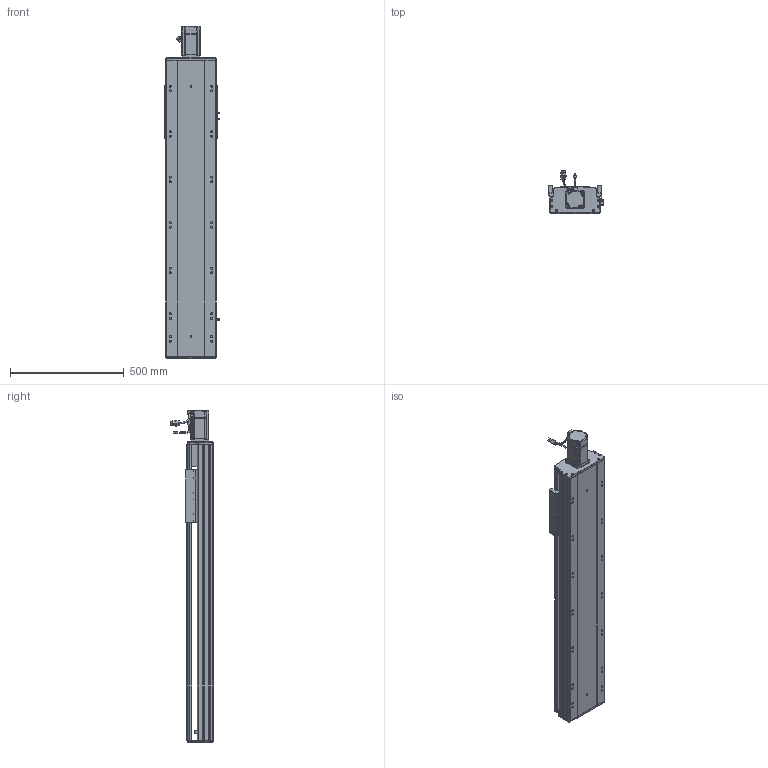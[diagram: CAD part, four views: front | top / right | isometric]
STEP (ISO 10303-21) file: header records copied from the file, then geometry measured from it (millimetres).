
FILE_DESCRIPTION (( 'STEP AP203' ), '1' );
FILE_NAME ('RY220-L2525-300-MK.SLDASM_900.step', '2022-07-04T02:57:47', ( '' ), ( '' ), 'SwSTEP 2.0', 'SolidWorks 2016', '' );
FILE_SCHEMA (( 'CONFIG_CONTROL_DESIGN' ));
Length unit declared in the file: millimetre
Products named in the file (12): RY220-300-奻裔啣-MK_900; RY220-L2525-300-MK.SLDASM_900; RY220綴裔啣; 滅袉蝶18-12; RY220-俋离672覜茼んえ; RY220菁釱MK-300_900; RY220ヶ裔啣; 覜茼ん672; RY220半封闭25-32螺母铝滑块; 怢湛750W_ECMA-CX0807ES; 滅袉蝶18-15; RY220电机支撑座FK20（PCD90M6）
Assembly tree (15 placements, depth 2):
  RY220-L2525-300-MK.SLDASM_900
    RY220菁釱MK-300_900
    RY220电机支撑座FK20（PCD90M6）
    怢湛750W_ECMA-CX0807ES
    滅袉蝶18-12  x2
    RY220ヶ裔啣
    RY220綴裔啣
    覜茼ん672  x3
    RY220半封闭25-32螺母铝滑块
    RY220-300-奻裔啣-MK_900
    RY220-俋离672覜茼んえ
    滅袉蝶18-15  x2
Bounding box: 238.7 x 187.27 x 1458.3 mm (x, y, z)
Volume: 11723608.2 mm3; surface area: 3221490 mm2
Topology: 16 solids, 16 shells, 2198 faces, 6094 edges, 3852 vertices
Faces by surface type: cylinder 988, plane 907, cone 241, bspline 36, sphere 16, torus 10
Entity records: 72322 total; most frequent: CARTESIAN_POINT 20613, ORIENTED_EDGE 10744, DIRECTION 10139, EDGE_CURVE 5372, AXIS2_PLACEMENT_3D 3563, VERTEX_POINT 3508, VECTOR 3013, LINE 3013
